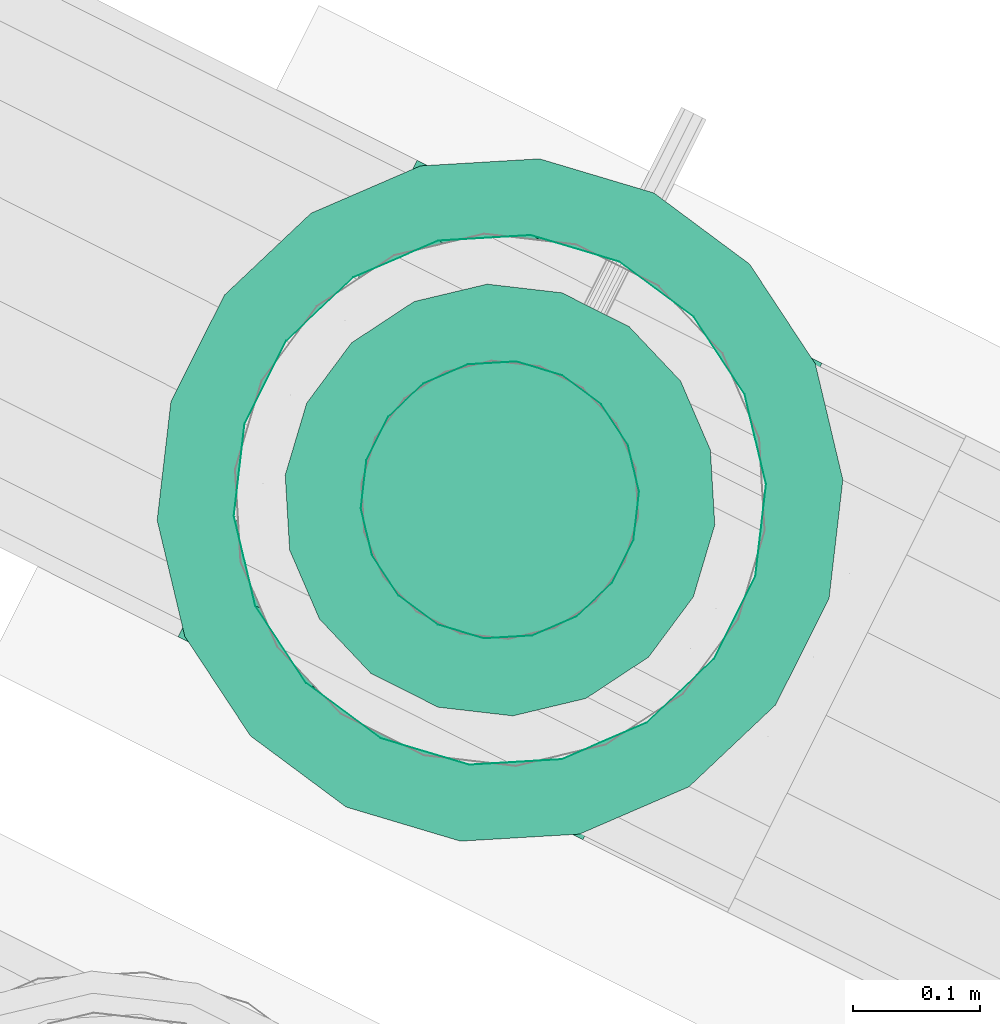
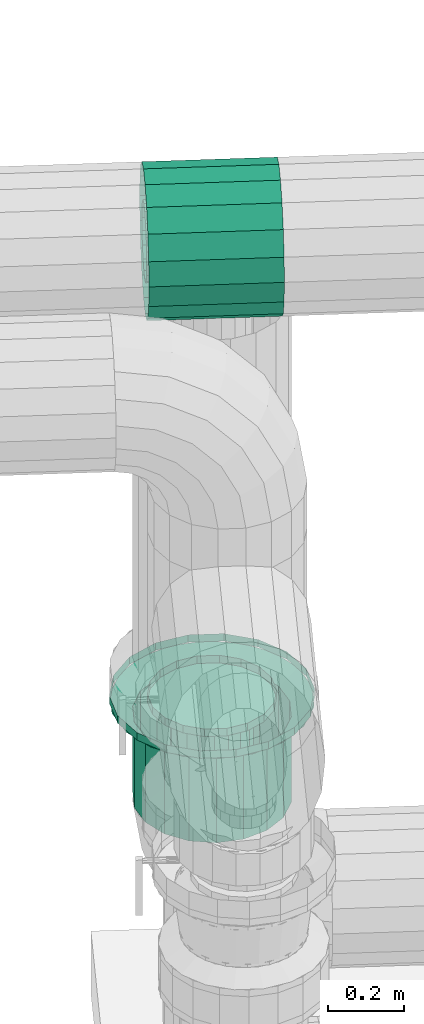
# One storey, part 129 of 152: 2 flow fittings, 1 flow segment.
"""IFC2X3 building model written with IfcOpenShell, lengths in metres."""

from ifc_helpers import new_model, si_unit, derived_unit, direction, frame, origin, place, context, subcontext, project, spatial, face_set, surface_model, source, transform, mapped, material, type_object, type_shapes, element, save


model = new_model("IFC2X3")

# Units and contexts
model_context = context("Model", 3, precision=5.2338327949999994e-05, world=origin(), true_north=direction((0.0, 1.0)))
body_context = subcontext(model_context, "Body", "Model", "MODEL_VIEW")
ifc_project = project(units=[si_unit("LENGTHUNIT", "METRE"), si_unit("AREAUNIT", "SQUARE_METRE"), si_unit("VOLUMEUNIT", "CUBIC_METRE"), si_unit("MASSUNIT", "GRAM", prefix="KILO"), si_unit("PLANEANGLEUNIT", "RADIAN"), derived_unit("THERMALTRANSMITTANCEUNIT", [(si_unit("MASSUNIT", "GRAM", prefix="KILO"), 1), (si_unit("THERMODYNAMICTEMPERATUREUNIT", "KELVIN"), -1), (si_unit("TIMEUNIT", "SECOND"), -3)])], contexts=[model_context])

# Site, building, storey
site_placement = place(None, frame((0.0, 0.0, 0.0), z_axis=(0.0, 0.0, 1.0), x_axis=(0.8939966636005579, -0.4480736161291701, 0.0)))
site = spatial("IfcSite", under=ifc_project, at=site_placement, Name="Default", CompositionType="ELEMENT")
building_placement = place(site_placement, origin())
building = spatial("IfcBuilding", under=site, at=building_placement, CompositionType="ELEMENT")
storey_placement = place(building_placement, frame((0.0, 0.0, 2.7499999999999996)))
storey = spatial("IfcBuildingStorey", under=building, at=storey_placement, Name="1. Obergeschoss", CompositionType="ELEMENT", Elevation=2.7499999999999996)

# Flow fitting
ifc_material = material(Name="IfcSurfaceStyle #1741")
distribution_element_type_1 = type_object("IfcDistributionElementType", Name="Flansch 7864:Flansch 7864", material=ifc_material)
shared_shape_1 = source(origin(), body_context, "Body", "SurfaceModel", [
    surface_model("IfcFaceBasedSurfaceModel", [(9.795770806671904, 8.012208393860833, 4.101028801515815), (9.78551855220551, 7.954064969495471, 4.101028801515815), (9.78551855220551, 7.954064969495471, 4.077028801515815), (9.795770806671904, 8.012208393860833, 4.077028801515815), (9.755998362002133, 7.902934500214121, 4.101028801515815), (9.755998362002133, 7.902934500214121, 4.077028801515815), (9.710770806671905, 7.864984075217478, 4.101028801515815), (9.710770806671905, 7.864984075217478, 4.077028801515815), (9.655290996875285, 7.844791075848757, 4.101028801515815), (9.655290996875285, 7.844791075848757, 4.077028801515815), (9.596250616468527, 7.844791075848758, 4.101028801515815), (9.596250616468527, 7.844791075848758, 4.077028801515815), (9.540770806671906, 7.864984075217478, 4.101028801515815), (9.540770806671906, 7.864984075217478, 4.077028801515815), (9.495543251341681, 7.90293450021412, 4.101028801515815), (9.495543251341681, 7.90293450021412, 4.077028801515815), (9.466023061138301, 7.9540649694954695, 4.101028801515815), (9.466023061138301, 7.9540649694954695, 4.077028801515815), (9.455770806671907, 8.012208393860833, 4.101028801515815), (9.455770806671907, 8.012208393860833, 4.077028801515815), (9.466023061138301, 8.070351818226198, 4.101028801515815), (9.466023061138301, 8.070351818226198, 4.077028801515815), (9.495543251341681, 8.121482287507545, 4.101028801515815), (9.495543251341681, 8.121482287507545, 4.077028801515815), (9.540770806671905, 8.159432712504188, 4.101028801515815), (9.540770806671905, 8.159432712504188, 4.077028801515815), (9.596250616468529, 8.179625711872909, 4.101028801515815), (9.596250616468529, 8.179625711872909, 4.077028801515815), (9.655290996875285, 8.179625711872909, 4.101028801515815), (9.655290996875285, 8.179625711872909, 4.077028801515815), (9.710770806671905, 8.159432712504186, 4.101028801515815), (9.710770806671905, 8.159432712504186, 4.077028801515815), (9.755998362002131, 8.121482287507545, 4.101028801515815), (9.755998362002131, 8.121482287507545, 4.077028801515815), (9.785518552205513, 8.070351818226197, 4.101028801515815), (9.785518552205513, 8.070351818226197, 4.077028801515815), (9.625770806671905, 8.012208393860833, 4.077028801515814), (9.625770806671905, 8.129708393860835, 4.077028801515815), (9.66595817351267, 8.122622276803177, 4.077028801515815), (9.663239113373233, 8.115151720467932, 4.039028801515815), (9.625770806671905, 8.121758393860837, 4.039028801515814), (9.701298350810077, 8.102218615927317, 4.077028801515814), (9.696188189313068, 8.096128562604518, 4.039028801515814), (9.727528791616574, 8.070958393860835, 4.077028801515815), (9.720643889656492, 8.06698339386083, 4.039028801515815), (9.741485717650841, 8.032612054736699, 4.077028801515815), (9.733656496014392, 8.031231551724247, 4.039028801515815), (9.741485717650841, 7.99180473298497, 4.077028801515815), (9.733656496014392, 7.993185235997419, 4.039028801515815), (9.727528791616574, 7.953458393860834, 4.077028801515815), (9.720643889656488, 7.957433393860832, 4.039028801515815), (9.701298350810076, 7.922198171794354, 4.077028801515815), (9.696188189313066, 7.928288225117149, 4.039028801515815), (9.66595817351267, 7.9017945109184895, 4.077028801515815), (9.663239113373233, 7.909265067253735, 4.039028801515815), (9.625770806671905, 7.894708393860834, 4.077028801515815), (9.625770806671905, 7.902658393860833, 4.039028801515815), (9.585583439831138, 7.90179451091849, 4.077028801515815), (9.588302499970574, 7.909265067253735, 4.039028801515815), (9.550243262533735, 7.922198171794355, 4.077028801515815), (9.555353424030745, 7.928288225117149, 4.039028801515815), (9.524012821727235, 7.953458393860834, 4.077028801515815), (9.53089772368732, 7.957433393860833, 4.039028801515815), (9.51005589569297, 7.99180473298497, 4.077028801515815), (9.517885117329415, 7.9931852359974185, 4.039028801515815), (9.51005589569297, 8.032612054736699, 4.077028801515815), (9.517885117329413, 8.031231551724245, 4.039028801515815), (9.524012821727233, 8.070958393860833, 4.077028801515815), (9.53089772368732, 8.066983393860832, 4.039028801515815), (9.550243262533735, 8.102218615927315, 4.077028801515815), (9.555353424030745, 8.096128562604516, 4.039028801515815), (9.585583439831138, 8.122622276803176, 4.077028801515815), (9.588302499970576, 8.11515172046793, 4.039028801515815), (9.895770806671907, 8.012208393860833, 4.101028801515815), (9.879487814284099, 7.9198629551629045, 4.101028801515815), (9.879487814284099, 7.9198629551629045, 4.077028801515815), (9.895770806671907, 8.012208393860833, 4.077028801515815), (9.83260280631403, 7.8386557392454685, 4.101028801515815), (9.83260280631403, 7.8386557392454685, 4.077028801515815), (9.760770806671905, 7.778381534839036, 4.101028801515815), (9.760770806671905, 7.778381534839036, 4.077028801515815), (9.672655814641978, 7.746310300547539, 4.101028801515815), (9.672655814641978, 7.746310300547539, 4.077028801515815), (9.578885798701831, 7.746310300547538, 4.101028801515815), (9.578885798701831, 7.746310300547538, 4.077028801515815), (9.490770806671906, 7.778381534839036, 4.101028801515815), (9.490770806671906, 7.778381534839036, 4.077028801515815), (9.418938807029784, 7.838655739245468, 4.101028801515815), (9.418938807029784, 7.838655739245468, 4.077028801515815), (9.37205379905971, 7.919862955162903, 4.101028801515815), (9.37205379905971, 7.919862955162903, 4.077028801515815), (9.355770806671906, 8.012208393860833, 4.101028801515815), (9.355770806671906, 8.012208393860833, 4.077028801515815), (9.372053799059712, 8.104553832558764, 4.101028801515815), (9.372053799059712, 8.104553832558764, 4.077028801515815), (9.418938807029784, 8.1857610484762, 4.101028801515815), (9.418938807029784, 8.1857610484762, 4.077028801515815), (9.490770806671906, 8.246035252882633, 4.101028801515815), (9.490770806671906, 8.246035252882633, 4.077028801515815), (9.578885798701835, 8.278106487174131, 4.101028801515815), (9.578885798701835, 8.278106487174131, 4.077028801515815), (9.672655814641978, 8.27810648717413, 4.101028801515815), (9.672655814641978, 8.27810648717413, 4.077028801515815), (9.760770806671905, 8.246035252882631, 4.101028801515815), (9.760770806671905, 8.246035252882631, 4.077028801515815), (9.83260280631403, 8.185761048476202, 4.101028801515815), (9.83260280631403, 8.185761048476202, 4.077028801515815), (9.879487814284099, 8.104553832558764, 4.101028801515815), (9.879487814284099, 8.104553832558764, 4.077028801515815), (9.625770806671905, 8.282208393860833, 4.077028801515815), (9.718116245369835, 8.26592540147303, 4.077028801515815), (9.6974411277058, 8.209120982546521, 4.039028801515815), (9.625770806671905, 8.221758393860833, 4.039028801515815), (9.79932346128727, 8.219040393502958, 4.077028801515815), (9.76046695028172, 8.172733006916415, 4.039028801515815), (9.859597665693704, 8.147208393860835, 4.077028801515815), (9.807246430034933, 8.116983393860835, 4.039028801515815), (9.8916688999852, 8.059093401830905, 4.077028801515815), (9.832137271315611, 8.048596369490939, 4.039028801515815), (9.8916688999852, 7.965323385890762, 4.077028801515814), (9.832137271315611, 7.975820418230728, 4.039028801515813), (9.859597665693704, 7.877208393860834, 4.077028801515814), (9.807246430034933, 7.907433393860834, 4.039028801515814), (9.79932346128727, 7.805376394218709, 4.077028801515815), (9.76046695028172, 7.851683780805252, 4.039028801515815), (9.718116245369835, 7.758491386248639, 4.077028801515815), (9.6974411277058, 7.815295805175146, 4.039028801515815), (9.625770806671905, 7.742208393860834, 4.077028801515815), (9.625770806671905, 7.802658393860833, 4.039028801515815), (9.533425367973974, 7.758491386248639, 4.077028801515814), (9.554100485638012, 7.815295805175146, 4.039028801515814), (9.452218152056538, 7.805376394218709, 4.077028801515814), (9.491074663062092, 7.851683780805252, 4.039028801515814), (9.391943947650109, 7.877208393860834, 4.077028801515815), (9.444295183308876, 7.907433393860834, 4.039028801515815), (9.359872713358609, 7.965323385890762, 4.077028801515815), (9.419404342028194, 7.975820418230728, 4.039028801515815), (9.359872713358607, 8.059093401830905, 4.077028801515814), (9.419404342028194, 8.048596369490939, 4.039028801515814), (9.391943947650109, 8.147208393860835, 4.077028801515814), (9.444295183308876, 8.116983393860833, 4.039028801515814), (9.452218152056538, 8.219040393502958, 4.077028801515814), (9.491074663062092, 8.172733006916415, 4.039028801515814), (9.533425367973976, 8.26592540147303, 4.077028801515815), (9.554100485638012, 8.20912098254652, 4.039028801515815)], [face_set([[[0, 1, 2, 3]], [[1, 4, 5, 2]], [[4, 6, 7, 5]], [[6, 8, 9, 7]], [[8, 10, 11, 9]], [[10, 12, 13, 11]], [[12, 14, 15, 13]], [[14, 16, 17, 15]], [[16, 18, 19, 17]], [[18, 20, 21, 19]], [[20, 22, 23, 21]], [[22, 24, 25, 23]], [[24, 26, 27, 25]], [[26, 28, 29, 27]], [[28, 30, 31, 29]], [[30, 32, 33, 31]], [[32, 34, 35, 33]], [[34, 0, 3, 35]], [[36, 35, 3]], [[36, 33, 35]], [[36, 31, 33]], [[36, 29, 31]], [[36, 27, 29]], [[36, 25, 27]], [[36, 23, 25]], [[36, 21, 23]], [[36, 19, 21]], [[36, 17, 19]], [[36, 15, 17]], [[36, 13, 15]], [[36, 11, 13]], [[36, 9, 11]], [[36, 7, 9]], [[36, 5, 7]], [[36, 2, 5]], [[36, 3, 2]], [[37, 38, 39, 40]], [[38, 41, 42, 39]], [[41, 43, 44, 42]], [[43, 45, 46, 44]], [[45, 47, 48, 46]], [[47, 49, 50, 48]], [[49, 51, 52, 50]], [[51, 53, 54, 52]], [[53, 55, 56, 54]], [[55, 57, 58, 56]], [[57, 59, 60, 58]], [[59, 61, 62, 60]], [[61, 63, 64, 62]], [[63, 65, 66, 64]], [[65, 67, 68, 66]], [[67, 69, 70, 68]], [[69, 71, 72, 70]], [[71, 37, 40, 72]], [[73, 74, 75, 76]], [[74, 77, 78, 75]], [[77, 79, 80, 78]], [[79, 81, 82, 80]], [[81, 83, 84, 82]], [[83, 85, 86, 84]], [[85, 87, 88, 86]], [[87, 89, 90, 88]], [[89, 91, 92, 90]], [[91, 93, 94, 92]], [[93, 95, 96, 94]], [[95, 97, 98, 96]], [[97, 99, 100, 98]], [[99, 101, 102, 100]], [[101, 103, 104, 102]], [[103, 105, 106, 104]], [[105, 107, 108, 106]], [[107, 73, 76, 108]], [[109, 110, 111, 112]], [[110, 113, 114, 111]], [[113, 115, 116, 114]], [[115, 117, 118, 116]], [[117, 119, 120, 118]], [[119, 121, 122, 120]], [[121, 123, 124, 122]], [[123, 125, 126, 124]], [[125, 127, 128, 126]], [[127, 129, 130, 128]], [[129, 131, 132, 130]], [[131, 133, 134, 132]], [[133, 135, 136, 134]], [[135, 137, 138, 136]], [[137, 139, 140, 138]], [[139, 141, 142, 140]], [[141, 143, 144, 142]], [[143, 109, 112, 144]]])]),
])
type_shapes(distribution_element_type_1, [shared_shape_1])
flow_fitting_1_placement = place(storey_placement, frame((0.0, 0.0, -2.7499999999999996)))
element("IfcFlowFitting", 1, at=flow_fitting_1_placement, inside=storey, type_object=distribution_element_type_1, material=ifc_material, Name="Flansch", ObjectType="Flansch", context=body_context, shape_type="MappedRepresentation", body=[
    mapped(shared_shape_1, transform((0.0, 0.0, 0.0), scale=1.0)),
])

# Flow segment
distribution_element_type_2 = type_object("IfcDistributionElementType", Name="Stahlrohr nach DIN 2448 224147:Stahlrohr nach DIN 2448 224147", material=ifc_material)
shared_shape_2 = source(origin(), body_context, "Body", "SurfaceModel", [
    surface_model("IfcFaceBasedSurfaceModel", [(9.625770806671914, 7.902658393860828, 3.764870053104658), (9.66323911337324, 7.909265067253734, 3.764870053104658), (9.663239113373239, 7.909265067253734, 4.039028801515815), (9.625770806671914, 7.902658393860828, 4.039028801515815), (9.696188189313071, 7.928288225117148, 3.764870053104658), (9.696188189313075, 7.928288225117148, 4.039028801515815), (9.720643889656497, 7.9574333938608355, 3.764870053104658), (9.720643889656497, 7.9574333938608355, 4.039028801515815), (9.733656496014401, 7.99318523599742, 3.764870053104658), (9.733656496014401, 7.993185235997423, 4.039028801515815), (9.7336564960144, 8.031231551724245, 3.764870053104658), (9.733656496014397, 8.031231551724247, 4.039028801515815), (9.720643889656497, 8.066983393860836, 3.764870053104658), (9.720643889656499, 8.066983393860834, 4.039028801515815), (9.696188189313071, 8.096128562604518, 3.764870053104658), (9.696188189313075, 8.09612856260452, 4.039028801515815), (9.66323911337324, 8.115151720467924, 3.764870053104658), (9.66323911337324, 8.115151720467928, 4.039028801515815), (9.62577080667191, 8.121758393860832, 3.764870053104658), (9.625770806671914, 8.121758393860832, 4.039028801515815), (9.588302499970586, 8.115151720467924, 3.764870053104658), (9.588302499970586, 8.115151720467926, 4.039028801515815), (9.55535342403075, 8.09612856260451, 3.764870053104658), (9.55535342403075, 8.096128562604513, 4.039028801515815), (9.530897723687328, 8.066983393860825, 3.764870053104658), (9.530897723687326, 8.066983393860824, 4.039028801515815), (9.517885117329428, 8.031231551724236, 3.764870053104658), (9.517885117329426, 8.031231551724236, 4.039028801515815), (9.517885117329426, 7.9931852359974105, 3.764870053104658), (9.517885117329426, 7.993185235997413, 4.039028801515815), (9.530897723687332, 7.957433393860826, 3.764870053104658), (9.530897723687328, 7.957433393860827, 4.039028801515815), (9.555353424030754, 7.92828822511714, 3.764870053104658), (9.55535342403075, 7.928288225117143, 4.039028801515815), (9.588302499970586, 7.909265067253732, 3.764870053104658), (9.588302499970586, 7.909265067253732, 4.039028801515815), (9.625770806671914, 7.802658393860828, 3.764870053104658), (9.6974411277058, 7.8152958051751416, 3.764870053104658), (9.697441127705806, 7.815295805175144, 4.039028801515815), (9.625770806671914, 7.802658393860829, 4.039028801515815), (9.760466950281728, 7.85168378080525, 3.764870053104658), (9.760466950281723, 7.851683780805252, 4.039028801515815), (9.807246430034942, 7.90743339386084, 3.764870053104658), (9.80724643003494, 7.907433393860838, 4.039028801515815), (9.83213727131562, 7.975820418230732, 3.764870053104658), (9.83213727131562, 7.975820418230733, 4.039028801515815), (9.832137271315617, 8.048596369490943, 3.764870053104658), (9.832137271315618, 8.048596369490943, 4.039028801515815), (9.80724643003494, 8.116983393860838, 3.764870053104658), (9.80724643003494, 8.116983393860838, 4.039028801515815), (9.760466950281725, 8.17273300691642, 3.764870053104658), (9.760466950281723, 8.172733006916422, 4.039028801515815), (9.697441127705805, 8.209120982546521, 3.764870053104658), (9.697441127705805, 8.209120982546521, 4.039028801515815), (9.62577080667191, 8.221758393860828, 3.764870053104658), (9.625770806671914, 8.221758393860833, 4.039028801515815), (9.554100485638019, 8.209120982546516, 3.764870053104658), (9.554100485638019, 8.209120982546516, 4.039028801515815), (9.491074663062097, 8.172733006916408, 3.764870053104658), (9.4910746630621, 8.172733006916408, 4.039028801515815), (9.444295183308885, 8.11698339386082, 3.764870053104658), (9.444295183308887, 8.116983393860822, 4.039028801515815), (9.419404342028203, 8.048596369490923, 3.764870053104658), (9.419404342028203, 8.048596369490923, 4.039028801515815), (9.419404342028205, 7.9758204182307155, 3.764870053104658), (9.419404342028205, 7.975820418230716, 4.039028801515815), (9.444295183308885, 7.90743339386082, 3.764870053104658), (9.444295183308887, 7.9074333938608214, 4.039028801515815), (9.4910746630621, 7.851683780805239, 3.764870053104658), (9.491074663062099, 7.85168378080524, 4.039028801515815), (9.554100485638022, 7.815295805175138, 3.764870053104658), (9.554100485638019, 7.815295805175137, 4.039028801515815)], [face_set([[[0, 1, 2, 3]], [[1, 4, 5, 2]], [[4, 6, 7, 5]], [[6, 8, 9, 7]], [[8, 10, 11, 9]], [[10, 12, 13, 11]], [[12, 14, 15, 13]], [[14, 16, 17, 15]], [[16, 18, 19, 17]], [[18, 20, 21, 19]], [[20, 22, 23, 21]], [[22, 24, 25, 23]], [[24, 26, 27, 25]], [[26, 28, 29, 27]], [[28, 30, 31, 29]], [[30, 32, 33, 31]], [[32, 34, 35, 33]], [[34, 0, 3, 35]], [[36, 37, 38, 39]], [[37, 40, 41, 38]], [[40, 42, 43, 41]], [[42, 44, 45, 43]], [[44, 46, 47, 45]], [[46, 48, 49, 47]], [[48, 50, 51, 49]], [[50, 52, 53, 51]], [[52, 54, 55, 53]], [[54, 56, 57, 55]], [[56, 58, 59, 57]], [[58, 60, 61, 59]], [[60, 62, 63, 61]], [[62, 64, 65, 63]], [[64, 66, 67, 65]], [[66, 68, 69, 67]], [[68, 70, 71, 69]], [[70, 36, 39, 71]]])]),
])
type_shapes(distribution_element_type_2, [shared_shape_2])
flow_segment_placement = place(storey_placement, frame((0.0, 0.0, -2.7499999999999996)))
element("IfcFlowSegment", 2, at=flow_segment_placement, inside=storey, type_object=distribution_element_type_2, material=ifc_material, Name="Stahlrohr nach DIN 2448", ObjectType="Stahlrohr nach DIN 2448", context=body_context, shape_type="MappedRepresentation", body=[
    mapped(shared_shape_2, transform((0.0, 0.0, 0.0), scale=1.0)),
])

# Flow fitting
distribution_element_type_3 = type_object("IfcDistributionElementType", Name="Abzweigstück 228516:Abzweigstück 228516", material=ifc_material)
shared_shape_3 = source(origin(), body_context, "Body", "SurfaceModel", [
    surface_model("IfcFaceBasedSurfaceModel", [(9.803770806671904, 7.902658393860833, 5.553028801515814), (9.803770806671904, 7.909265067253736, 5.590497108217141), (9.447770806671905, 7.909265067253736, 5.590497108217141), (9.447770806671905, 7.902658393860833, 5.553028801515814), (9.803770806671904, 7.928288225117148, 5.623446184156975), (9.447770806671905, 7.928288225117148, 5.623446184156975), (9.803770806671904, 7.957433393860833, 5.6479018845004), (9.447770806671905, 7.957433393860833, 5.6479018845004), (9.803770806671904, 7.9931852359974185, 5.660914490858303), (9.447770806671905, 7.9931852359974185, 5.660914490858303), (9.803770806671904, 8.031231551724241, 5.660914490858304), (9.447770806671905, 8.031231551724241, 5.660914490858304), (9.803770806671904, 8.066983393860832, 5.647901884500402), (9.447770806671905, 8.066983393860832, 5.647901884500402), (9.803770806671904, 8.096128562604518, 5.623446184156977), (9.447770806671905, 8.096128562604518, 5.623446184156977), (9.803770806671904, 8.115151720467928, 5.590497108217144), (9.447770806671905, 8.115151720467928, 5.590497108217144), (9.803770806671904, 8.121758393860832, 5.553028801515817), (9.447770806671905, 8.121758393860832, 5.553028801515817), (9.803770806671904, 8.115151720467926, 5.5155604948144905), (9.447770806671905, 8.115151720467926, 5.5155604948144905), (9.803770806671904, 8.096128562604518, 5.482611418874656), (9.447770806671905, 8.096128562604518, 5.482611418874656), (9.803770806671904, 8.066983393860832, 5.458155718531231), (9.447770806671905, 8.066983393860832, 5.458155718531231), (9.803770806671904, 8.031231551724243, 5.445143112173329), (9.447770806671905, 8.031231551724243, 5.445143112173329), (9.803770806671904, 7.993185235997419, 5.445143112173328), (9.447770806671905, 7.993185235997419, 5.445143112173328), (9.803770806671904, 7.957433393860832, 5.458155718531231), (9.447770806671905, 7.957433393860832, 5.458155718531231), (9.803770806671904, 7.928288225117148, 5.4826114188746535), (9.447770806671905, 7.928288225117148, 5.4826114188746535), (9.803770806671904, 7.909265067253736, 5.515560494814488), (9.447770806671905, 7.909265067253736, 5.515560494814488), (9.803770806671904, 7.802658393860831, 5.553028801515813), (9.803770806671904, 7.8152958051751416, 5.624699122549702), (9.447770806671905, 7.815295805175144, 5.624699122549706), (9.447770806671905, 7.802658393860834, 5.553028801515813), (9.803770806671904, 7.851683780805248, 5.687724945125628), (9.447770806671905, 7.851683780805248, 5.687724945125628), (9.803770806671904, 7.907433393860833, 5.7345044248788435), (9.447770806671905, 7.907433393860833, 5.7345044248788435), (9.803770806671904, 7.975820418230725, 5.759395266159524), (9.447770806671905, 7.975820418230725, 5.759395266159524), (9.803770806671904, 8.048596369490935, 5.759395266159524), (9.447770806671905, 8.048596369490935, 5.759395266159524), (9.803770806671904, 8.11698339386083, 5.734504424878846), (9.447770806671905, 8.11698339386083, 5.734504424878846), (9.803770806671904, 8.172733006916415, 5.687724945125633), (9.447770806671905, 8.172733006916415, 5.687724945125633), (9.803770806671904, 8.20912098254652, 5.6246991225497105), (9.447770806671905, 8.20912098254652, 5.6246991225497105), (9.803770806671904, 8.22175839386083, 5.553028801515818), (9.447770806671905, 8.22175839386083, 5.553028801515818), (9.803770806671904, 8.209120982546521, 5.481358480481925), (9.447770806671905, 8.209120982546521, 5.481358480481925), (9.803770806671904, 8.172733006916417, 5.418332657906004), (9.447770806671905, 8.172733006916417, 5.418332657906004), (9.803770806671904, 8.116983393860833, 5.371553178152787), (9.447770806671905, 8.116983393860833, 5.371553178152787), (9.803770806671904, 8.04859636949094, 5.3466623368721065), (9.447770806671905, 8.04859636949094, 5.3466623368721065), (9.803770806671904, 7.97582041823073, 5.3466623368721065), (9.447770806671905, 7.97582041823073, 5.3466623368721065), (9.803770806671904, 7.907433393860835, 5.3715531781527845), (9.447770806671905, 7.907433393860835, 5.3715531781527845), (9.803770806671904, 7.851683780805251, 5.418332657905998), (9.447770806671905, 7.851683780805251, 5.418332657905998), (9.803770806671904, 7.815295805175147, 5.48135848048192), (9.447770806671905, 7.815295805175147, 5.48135848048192), (9.516220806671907, 8.012208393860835, 5.443478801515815), (9.522827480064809, 8.049676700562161, 5.45008547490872), (9.522827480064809, 8.049676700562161, 5.375028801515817), (9.516220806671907, 8.012208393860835, 5.375028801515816), (9.541850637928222, 8.082625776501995, 5.469108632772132), (9.541850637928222, 8.082625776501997, 5.375028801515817), (9.570995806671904, 8.107081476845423, 5.498253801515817), (9.570995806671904, 8.107081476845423, 5.375028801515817), (9.606747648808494, 8.120094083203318, 5.534005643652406), (9.606747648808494, 8.12009408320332, 5.375028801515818), (9.644793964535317, 8.12009408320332, 5.534005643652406), (9.644793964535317, 8.120094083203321, 5.375028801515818), (9.680545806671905, 8.10708147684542, 5.498253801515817), (9.680545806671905, 8.10708147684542, 5.375028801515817), (9.70969097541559, 8.082625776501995, 5.469108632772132), (9.70969097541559, 8.082625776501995, 5.375028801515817), (9.728714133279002, 8.049676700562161, 5.45008547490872), (9.728714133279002, 8.049676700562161, 5.375028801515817), (9.735320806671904, 8.012208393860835, 5.443478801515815), (9.735320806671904, 8.012208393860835, 5.375028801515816), (9.728714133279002, 7.974740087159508, 5.45008547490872), (9.728714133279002, 7.974740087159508, 5.375028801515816), (9.70969097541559, 7.941791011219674, 5.46910863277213), (9.70969097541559, 7.941791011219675, 5.375028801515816), (9.680545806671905, 7.917335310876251, 5.498253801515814), (9.680545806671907, 7.917335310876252, 5.375028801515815), (9.644793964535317, 7.904322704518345, 5.534005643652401), (9.644793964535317, 7.904322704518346, 5.375028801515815), (9.606747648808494, 7.904322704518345, 5.534005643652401), (9.606747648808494, 7.904322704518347, 5.375028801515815), (9.570995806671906, 7.917335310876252, 5.498253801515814), (9.570995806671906, 7.917335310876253, 5.375028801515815), (9.541850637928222, 7.941791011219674, 5.46910863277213), (9.541850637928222, 7.941791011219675, 5.375028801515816), (9.52282748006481, 7.974740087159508, 5.45008547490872), (9.52282748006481, 7.974740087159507, 5.375028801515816)], [face_set([[[0, 1, 2, 3]], [[1, 4, 5, 2]], [[4, 6, 7, 5]], [[6, 8, 9, 7]], [[8, 10, 11, 9]], [[10, 12, 13, 11]], [[12, 14, 15, 13]], [[14, 16, 17, 15]], [[16, 18, 19, 17]], [[18, 20, 21, 19]], [[20, 22, 23, 21]], [[22, 24, 25, 23]], [[24, 26, 27, 25]], [[26, 28, 29, 27]], [[28, 30, 31, 29]], [[30, 32, 33, 31]], [[32, 34, 35, 33]], [[34, 0, 3, 35]], [[36, 37, 38, 39]], [[37, 40, 41, 38]], [[40, 42, 43, 41]], [[42, 44, 45, 43]], [[44, 46, 47, 45]], [[46, 48, 49, 47]], [[48, 50, 51, 49]], [[50, 52, 53, 51]], [[52, 54, 55, 53]], [[54, 56, 57, 55]], [[56, 58, 59, 57]], [[58, 60, 61, 59]], [[60, 62, 63, 61]], [[62, 64, 65, 63]], [[64, 66, 67, 65]], [[66, 68, 69, 67]], [[68, 70, 71, 69]], [[70, 36, 39, 71]], [[72, 73, 74, 75]], [[73, 76, 77, 74]], [[76, 78, 79, 77]], [[78, 80, 81, 79]], [[80, 82, 83, 81]], [[82, 84, 85, 83]], [[84, 86, 87, 85]], [[86, 88, 89, 87]], [[88, 90, 91, 89]], [[90, 92, 93, 91]], [[92, 94, 95, 93]], [[94, 96, 97, 95]], [[96, 98, 99, 97]], [[98, 100, 101, 99]], [[100, 102, 103, 101]], [[102, 104, 105, 103]], [[104, 106, 107, 105]], [[106, 72, 75, 107]]])]),
])
type_shapes(distribution_element_type_3, [shared_shape_3])
flow_fitting_2_placement = place(storey_placement, frame((0.0, 0.0, -2.7499999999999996)))
element("IfcFlowFitting", 3, at=flow_fitting_2_placement, inside=storey, type_object=distribution_element_type_3, material=ifc_material, Name="Abzweigstück", ObjectType="Abzweigstück", context=body_context, shape_type="MappedRepresentation", body=[
    mapped(shared_shape_3, transform((0.0, 0.0, 0.0), scale=1.0)),
])

save(model, "model.ifc")
